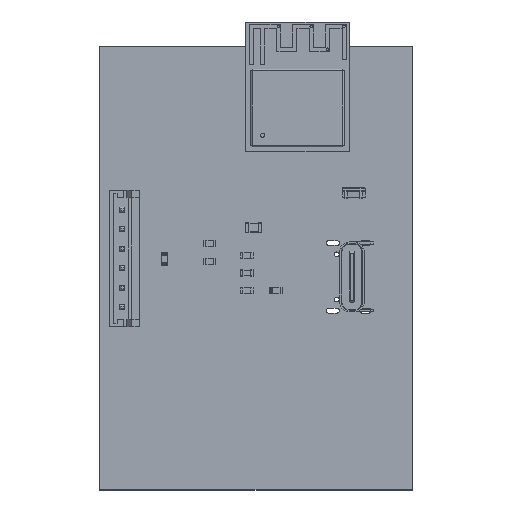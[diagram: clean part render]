
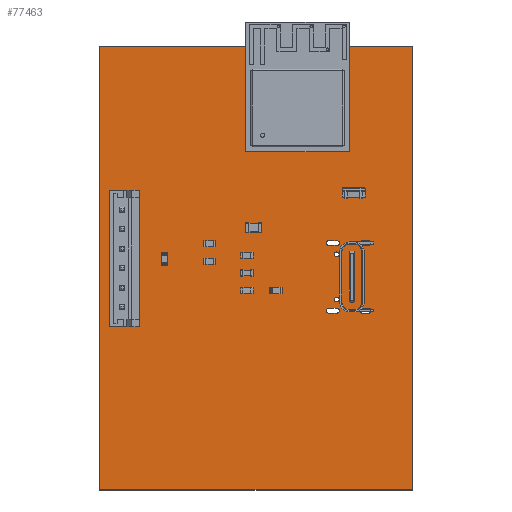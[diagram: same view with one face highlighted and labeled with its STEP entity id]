
A CAD part, top view. The second image highlights one B-rep face of the part: STEP entity #77463.
In plain terms, the highlighted planar face has unit normal (0, 0, 1).
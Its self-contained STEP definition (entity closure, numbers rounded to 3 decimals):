
#77119 = VERTEX_POINT('',#77120);
#77120 = CARTESIAN_POINT('',(164.5,-123.75,1.51));
#77126 = EDGE_CURVE('',#77119,#77127,#77129,.T.);
#77127 = VERTEX_POINT('',#77128);
#77128 = CARTESIAN_POINT('',(124.5,-123.75,1.51));
#77129 = LINE('',#77130,#77131);
#77130 = CARTESIAN_POINT('',(164.5,-123.75,1.51));
#77131 = VECTOR('',#77132,1.);
#77132 = DIRECTION('',(-1.,0.,0.));
#77159 = VERTEX_POINT('',#77160);
#77160 = CARTESIAN_POINT('',(164.5,-67.,1.51));
#77166 = EDGE_CURVE('',#77159,#77119,#77167,.T.);
#77167 = LINE('',#77168,#77169);
#77168 = CARTESIAN_POINT('',(164.5,-67.,1.51));
#77169 = VECTOR('',#77170,1.);
#77170 = DIRECTION('',(0.,-1.,0.));
#77188 = EDGE_CURVE('',#77127,#77189,#77191,.T.);
#77189 = VERTEX_POINT('',#77190);
#77190 = CARTESIAN_POINT('',(124.5,-67.,1.51));
#77191 = LINE('',#77192,#77193);
#77192 = CARTESIAN_POINT('',(124.5,-123.75,1.51));
#77193 = VECTOR('',#77194,1.);
#77194 = DIRECTION('',(0.,1.,0.));
#77463 = ADVANCED_FACE('',(#77464,#77475,#77486,#77497,#77508,#77544,
    #77580,#77591,#77602,#77613,#77624,#77635,#77671),#77707,.T.);
#77464 = FACE_BOUND('',#77465,.T.);
#77465 = EDGE_LOOP('',(#77466,#77467,#77468,#77474));
#77466 = ORIENTED_EDGE('',*,*,#77126,.F.);
#77467 = ORIENTED_EDGE('',*,*,#77166,.F.);
#77468 = ORIENTED_EDGE('',*,*,#77469,.F.);
#77469 = EDGE_CURVE('',#77189,#77159,#77470,.T.);
#77470 = LINE('',#77471,#77472);
#77471 = CARTESIAN_POINT('',(124.5,-67.,1.51));
#77472 = VECTOR('',#77473,1.);
#77473 = DIRECTION('',(1.,0.,0.));
#77474 = ORIENTED_EDGE('',*,*,#77188,.F.);
#77475 = FACE_BOUND('',#77476,.T.);
#77476 = EDGE_LOOP('',(#77477));
#77477 = ORIENTED_EDGE('',*,*,#77478,.T.);
#77478 = EDGE_CURVE('',#77479,#77479,#77481,.T.);
#77479 = VERTEX_POINT('',#77480);
#77480 = CARTESIAN_POINT('',(127.4,-100.875,1.51));
#77481 = CIRCLE('',#77482,0.475);
#77482 = AXIS2_PLACEMENT_3D('',#77483,#77484,#77485);
#77483 = CARTESIAN_POINT('',(127.4,-100.4,1.51));
#77484 = DIRECTION('',(-0.,0.,-1.));
#77485 = DIRECTION('',(-0.,-1.,0.));
#77486 = FACE_BOUND('',#77487,.T.);
#77487 = EDGE_LOOP('',(#77488));
#77488 = ORIENTED_EDGE('',*,*,#77489,.T.);
#77489 = EDGE_CURVE('',#77490,#77490,#77492,.T.);
#77490 = VERTEX_POINT('',#77491);
#77491 = CARTESIAN_POINT('',(127.4,-98.375,1.51));
#77492 = CIRCLE('',#77493,0.475);
#77493 = AXIS2_PLACEMENT_3D('',#77494,#77495,#77496);
#77494 = CARTESIAN_POINT('',(127.4,-97.9,1.51));
#77495 = DIRECTION('',(-0.,0.,-1.));
#77496 = DIRECTION('',(-0.,-1.,0.));
#77497 = FACE_BOUND('',#77498,.T.);
#77498 = EDGE_LOOP('',(#77499));
#77499 = ORIENTED_EDGE('',*,*,#77500,.T.);
#77500 = EDGE_CURVE('',#77501,#77501,#77503,.T.);
#77501 = VERTEX_POINT('',#77502);
#77502 = CARTESIAN_POINT('',(127.4,-95.875,1.51));
#77503 = CIRCLE('',#77504,0.475);
#77504 = AXIS2_PLACEMENT_3D('',#77505,#77506,#77507);
#77505 = CARTESIAN_POINT('',(127.4,-95.4,1.51));
#77506 = DIRECTION('',(-0.,0.,-1.));
#77507 = DIRECTION('',(-0.,-1.,0.));
#77508 = FACE_BOUND('',#77509,.T.);
#77509 = EDGE_LOOP('',(#77510,#77521,#77529,#77538));
#77510 = ORIENTED_EDGE('',*,*,#77511,.T.);
#77511 = EDGE_CURVE('',#77512,#77514,#77516,.T.);
#77512 = VERTEX_POINT('',#77513);
#77513 = CARTESIAN_POINT('',(154.88,-100.525,1.51));
#77514 = VERTEX_POINT('',#77515);
#77515 = CARTESIAN_POINT('',(154.88,-101.125,1.51));
#77516 = CIRCLE('',#77517,0.3);
#77517 = AXIS2_PLACEMENT_3D('',#77518,#77519,#77520);
#77518 = CARTESIAN_POINT('',(154.88,-100.825,1.51));
#77519 = DIRECTION('',(-0.,0.,-1.));
#77520 = DIRECTION('',(0.,-1.,0.));
#77521 = ORIENTED_EDGE('',*,*,#77522,.T.);
#77522 = EDGE_CURVE('',#77514,#77523,#77525,.T.);
#77523 = VERTEX_POINT('',#77524);
#77524 = CARTESIAN_POINT('',(153.78,-101.125,1.51));
#77525 = LINE('',#77526,#77527);
#77526 = CARTESIAN_POINT('',(76.89,-101.125,1.51));
#77527 = VECTOR('',#77528,1.);
#77528 = DIRECTION('',(-1.,0.,0.));
#77529 = ORIENTED_EDGE('',*,*,#77530,.T.);
#77530 = EDGE_CURVE('',#77523,#77531,#77533,.T.);
#77531 = VERTEX_POINT('',#77532);
#77532 = CARTESIAN_POINT('',(153.78,-100.525,1.51));
#77533 = CIRCLE('',#77534,0.3);
#77534 = AXIS2_PLACEMENT_3D('',#77535,#77536,#77537);
#77535 = CARTESIAN_POINT('',(153.78,-100.825,1.51));
#77536 = DIRECTION('',(0.,-0.,-1.));
#77537 = DIRECTION('',(0.,1.,-0.));
#77538 = ORIENTED_EDGE('',*,*,#77539,.T.);
#77539 = EDGE_CURVE('',#77531,#77512,#77540,.T.);
#77540 = LINE('',#77541,#77542);
#77541 = CARTESIAN_POINT('',(77.44,-100.525,1.51));
#77542 = VECTOR('',#77543,1.);
#77543 = DIRECTION('',(1.,0.,-0.));
#77544 = FACE_BOUND('',#77545,.T.);
#77545 = EDGE_LOOP('',(#77546,#77557,#77565,#77574));
#77546 = ORIENTED_EDGE('',*,*,#77547,.T.);
#77547 = EDGE_CURVE('',#77548,#77550,#77552,.T.);
#77548 = VERTEX_POINT('',#77549);
#77549 = CARTESIAN_POINT('',(158.9,-100.525,1.51));
#77550 = VERTEX_POINT('',#77551);
#77551 = CARTESIAN_POINT('',(158.9,-101.125,1.51));
#77552 = CIRCLE('',#77553,0.3);
#77553 = AXIS2_PLACEMENT_3D('',#77554,#77555,#77556);
#77554 = CARTESIAN_POINT('',(158.9,-100.825,1.51));
#77555 = DIRECTION('',(-0.,0.,-1.));
#77556 = DIRECTION('',(-0.,-1.,0.));
#77557 = ORIENTED_EDGE('',*,*,#77558,.T.);
#77558 = EDGE_CURVE('',#77550,#77559,#77561,.T.);
#77559 = VERTEX_POINT('',#77560);
#77560 = CARTESIAN_POINT('',(158.1,-101.125,1.51));
#77561 = LINE('',#77562,#77563);
#77562 = CARTESIAN_POINT('',(79.05,-101.125,1.51));
#77563 = VECTOR('',#77564,1.);
#77564 = DIRECTION('',(-1.,0.,0.));
#77565 = ORIENTED_EDGE('',*,*,#77566,.T.);
#77566 = EDGE_CURVE('',#77559,#77567,#77569,.T.);
#77567 = VERTEX_POINT('',#77568);
#77568 = CARTESIAN_POINT('',(158.1,-100.525,1.51));
#77569 = CIRCLE('',#77570,0.3);
#77570 = AXIS2_PLACEMENT_3D('',#77571,#77572,#77573);
#77571 = CARTESIAN_POINT('',(158.1,-100.825,1.51));
#77572 = DIRECTION('',(-0.,0.,-1.));
#77573 = DIRECTION('',(0.,1.,0.));
#77574 = ORIENTED_EDGE('',*,*,#77575,.T.);
#77575 = EDGE_CURVE('',#77567,#77548,#77576,.T.);
#77576 = LINE('',#77577,#77578);
#77577 = CARTESIAN_POINT('',(79.45,-100.525,1.51));
#77578 = VECTOR('',#77579,1.);
#77579 = DIRECTION('',(1.,0.,-0.));
#77580 = FACE_BOUND('',#77581,.T.);
#77581 = EDGE_LOOP('',(#77582));
#77582 = ORIENTED_EDGE('',*,*,#77583,.T.);
#77583 = EDGE_CURVE('',#77584,#77584,#77586,.T.);
#77584 = VERTEX_POINT('',#77585);
#77585 = CARTESIAN_POINT('',(154.82,-99.69,1.51));
#77586 = CIRCLE('',#77587,0.3);
#77587 = AXIS2_PLACEMENT_3D('',#77588,#77589,#77590);
#77588 = CARTESIAN_POINT('',(154.82,-99.39,1.51));
#77589 = DIRECTION('',(-0.,0.,-1.));
#77590 = DIRECTION('',(-0.,-1.,0.));
#77591 = FACE_BOUND('',#77592,.T.);
#77592 = EDGE_LOOP('',(#77593));
#77593 = ORIENTED_EDGE('',*,*,#77594,.T.);
#77594 = EDGE_CURVE('',#77595,#77595,#77597,.T.);
#77595 = VERTEX_POINT('',#77596);
#77596 = CARTESIAN_POINT('',(127.4,-93.375,1.51));
#77597 = CIRCLE('',#77598,0.475);
#77598 = AXIS2_PLACEMENT_3D('',#77599,#77600,#77601);
#77599 = CARTESIAN_POINT('',(127.4,-92.9,1.51));
#77600 = DIRECTION('',(-0.,0.,-1.));
#77601 = DIRECTION('',(-0.,-1.,0.));
#77602 = FACE_BOUND('',#77603,.T.);
#77603 = EDGE_LOOP('',(#77604));
#77604 = ORIENTED_EDGE('',*,*,#77605,.T.);
#77605 = EDGE_CURVE('',#77606,#77606,#77608,.T.);
#77606 = VERTEX_POINT('',#77607);
#77607 = CARTESIAN_POINT('',(127.4,-90.875,1.51));
#77608 = CIRCLE('',#77609,0.475);
#77609 = AXIS2_PLACEMENT_3D('',#77610,#77611,#77612);
#77610 = CARTESIAN_POINT('',(127.4,-90.4,1.51));
#77611 = DIRECTION('',(-0.,0.,-1.));
#77612 = DIRECTION('',(-0.,-1.,0.));
#77613 = FACE_BOUND('',#77614,.T.);
#77614 = EDGE_LOOP('',(#77615));
#77615 = ORIENTED_EDGE('',*,*,#77616,.T.);
#77616 = EDGE_CURVE('',#77617,#77617,#77619,.T.);
#77617 = VERTEX_POINT('',#77618);
#77618 = CARTESIAN_POINT('',(127.4,-88.375,1.51));
#77619 = CIRCLE('',#77620,0.475);
#77620 = AXIS2_PLACEMENT_3D('',#77621,#77622,#77623);
#77621 = CARTESIAN_POINT('',(127.4,-87.9,1.51));
#77622 = DIRECTION('',(-0.,0.,-1.));
#77623 = DIRECTION('',(-0.,-1.,0.));
#77624 = FACE_BOUND('',#77625,.T.);
#77625 = EDGE_LOOP('',(#77626));
#77626 = ORIENTED_EDGE('',*,*,#77627,.T.);
#77627 = EDGE_CURVE('',#77628,#77628,#77630,.T.);
#77628 = VERTEX_POINT('',#77629);
#77629 = CARTESIAN_POINT('',(154.82,-93.91,1.51));
#77630 = CIRCLE('',#77631,0.3);
#77631 = AXIS2_PLACEMENT_3D('',#77632,#77633,#77634);
#77632 = CARTESIAN_POINT('',(154.82,-93.61,1.51));
#77633 = DIRECTION('',(-0.,0.,-1.));
#77634 = DIRECTION('',(-0.,-1.,0.));
#77635 = FACE_BOUND('',#77636,.T.);
#77636 = EDGE_LOOP('',(#77637,#77648,#77656,#77665));
#77637 = ORIENTED_EDGE('',*,*,#77638,.T.);
#77638 = EDGE_CURVE('',#77639,#77641,#77643,.T.);
#77639 = VERTEX_POINT('',#77640);
#77640 = CARTESIAN_POINT('',(154.88,-91.875,1.51));
#77641 = VERTEX_POINT('',#77642);
#77642 = CARTESIAN_POINT('',(154.88,-92.475,1.51));
#77643 = CIRCLE('',#77644,0.3);
#77644 = AXIS2_PLACEMENT_3D('',#77645,#77646,#77647);
#77645 = CARTESIAN_POINT('',(154.88,-92.175,1.51));
#77646 = DIRECTION('',(-0.,0.,-1.));
#77647 = DIRECTION('',(0.,-1.,0.));
#77648 = ORIENTED_EDGE('',*,*,#77649,.T.);
#77649 = EDGE_CURVE('',#77641,#77650,#77652,.T.);
#77650 = VERTEX_POINT('',#77651);
#77651 = CARTESIAN_POINT('',(153.78,-92.475,1.51));
#77652 = LINE('',#77653,#77654);
#77653 = CARTESIAN_POINT('',(76.89,-92.475,1.51));
#77654 = VECTOR('',#77655,1.);
#77655 = DIRECTION('',(-1.,0.,0.));
#77656 = ORIENTED_EDGE('',*,*,#77657,.T.);
#77657 = EDGE_CURVE('',#77650,#77658,#77660,.T.);
#77658 = VERTEX_POINT('',#77659);
#77659 = CARTESIAN_POINT('',(153.78,-91.875,1.51));
#77660 = CIRCLE('',#77661,0.3);
#77661 = AXIS2_PLACEMENT_3D('',#77662,#77663,#77664);
#77662 = CARTESIAN_POINT('',(153.78,-92.175,1.51));
#77663 = DIRECTION('',(0.,-0.,-1.));
#77664 = DIRECTION('',(0.,1.,-0.));
#77665 = ORIENTED_EDGE('',*,*,#77666,.T.);
#77666 = EDGE_CURVE('',#77658,#77639,#77667,.T.);
#77667 = LINE('',#77668,#77669);
#77668 = CARTESIAN_POINT('',(77.44,-91.875,1.51));
#77669 = VECTOR('',#77670,1.);
#77670 = DIRECTION('',(1.,0.,-0.));
#77671 = FACE_BOUND('',#77672,.T.);
#77672 = EDGE_LOOP('',(#77673,#77684,#77692,#77701));
#77673 = ORIENTED_EDGE('',*,*,#77674,.T.);
#77674 = EDGE_CURVE('',#77675,#77677,#77679,.T.);
#77675 = VERTEX_POINT('',#77676);
#77676 = CARTESIAN_POINT('',(158.9,-91.875,1.51));
#77677 = VERTEX_POINT('',#77678);
#77678 = CARTESIAN_POINT('',(158.9,-92.475,1.51));
#77679 = CIRCLE('',#77680,0.3);
#77680 = AXIS2_PLACEMENT_3D('',#77681,#77682,#77683);
#77681 = CARTESIAN_POINT('',(158.9,-92.175,1.51));
#77682 = DIRECTION('',(-0.,0.,-1.));
#77683 = DIRECTION('',(-0.,-1.,0.));
#77684 = ORIENTED_EDGE('',*,*,#77685,.T.);
#77685 = EDGE_CURVE('',#77677,#77686,#77688,.T.);
#77686 = VERTEX_POINT('',#77687);
#77687 = CARTESIAN_POINT('',(158.1,-92.475,1.51));
#77688 = LINE('',#77689,#77690);
#77689 = CARTESIAN_POINT('',(79.05,-92.475,1.51));
#77690 = VECTOR('',#77691,1.);
#77691 = DIRECTION('',(-1.,0.,0.));
#77692 = ORIENTED_EDGE('',*,*,#77693,.T.);
#77693 = EDGE_CURVE('',#77686,#77694,#77696,.T.);
#77694 = VERTEX_POINT('',#77695);
#77695 = CARTESIAN_POINT('',(158.1,-91.875,1.51));
#77696 = CIRCLE('',#77697,0.3);
#77697 = AXIS2_PLACEMENT_3D('',#77698,#77699,#77700);
#77698 = CARTESIAN_POINT('',(158.1,-92.175,1.51));
#77699 = DIRECTION('',(-0.,0.,-1.));
#77700 = DIRECTION('',(0.,1.,0.));
#77701 = ORIENTED_EDGE('',*,*,#77702,.T.);
#77702 = EDGE_CURVE('',#77694,#77675,#77703,.T.);
#77703 = LINE('',#77704,#77705);
#77704 = CARTESIAN_POINT('',(79.45,-91.875,1.51));
#77705 = VECTOR('',#77706,1.);
#77706 = DIRECTION('',(1.,0.,-0.));
#77707 = PLANE('',#77708);
#77708 = AXIS2_PLACEMENT_3D('',#77709,#77710,#77711);
#77709 = CARTESIAN_POINT('',(0.,0.,1.51));
#77710 = DIRECTION('',(0.,0.,1.));
#77711 = DIRECTION('',(1.,0.,-0.));
